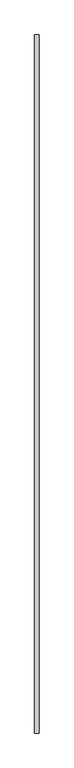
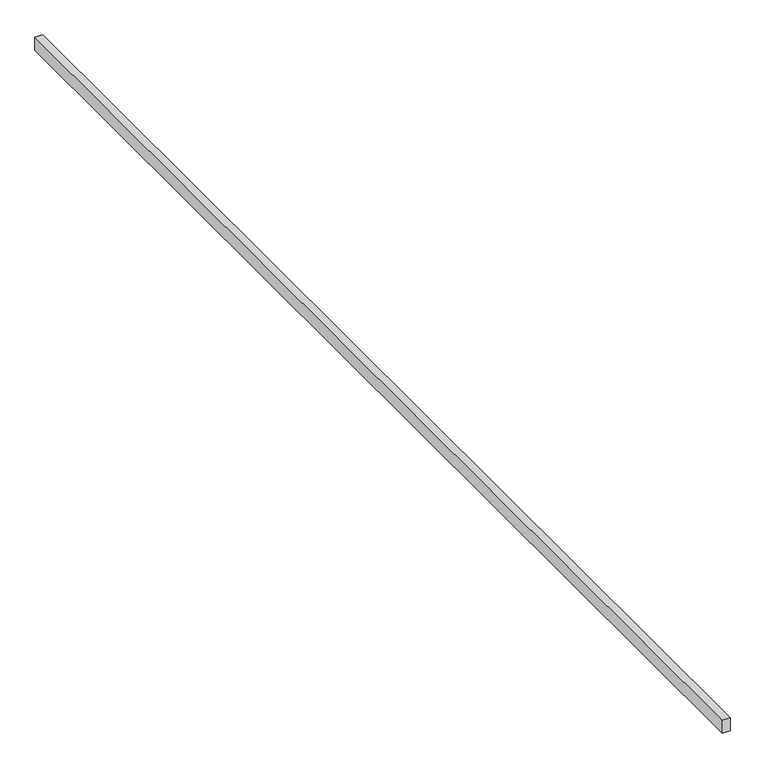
"""IFC4 building model written with IfcOpenShell, lengths in millimetres: proxy geometry, BHMS_Curtain Ext2 : BHMS_Curtain Ext."""

import ifcopenshell
import ifcopenshell.guid

model = None  # the IFC model being written
_history = None  # IfcOwnerHistory: only IFC2X3 demands one
_inside = {}  # id of a spatial element -> (the spatial element, [elements in it])
_under = {}  # id of a project, library or spatial element -> (it, [spatial elements below it])
_declared = {}  # id of a project -> (the project, [libraries it declares])
_typed = {}  # id of a type object -> (the type object, [elements of that type])
_made_of = {}  # id of a material, layer set ... -> (it, [elements and type objects made of it])


def new_model(schema):
    """Start an empty IFC model of exactly this schema.

    Asked for "IFC4X3", IfcOpenShell would pick the latest addendum, in which some entities
    have other attributes; the version numbers below select the first issue.
    IFC2X3 requires an IfcOwnerHistory on every rooted entity: one is made here for all.
    """
    global model, _history
    if schema == "IFC4X3":
        model = ifcopenshell.file(schema_version=(4, 3, 0, 0))
    else:
        model = ifcopenshell.file(schema=schema)
    _inside.clear()
    _under.clear()
    _declared.clear()
    _typed.clear()
    _made_of.clear()
    _history = None
    if model.schema == "IFC2X3":
        org = make("IfcOrganization", Name="unknown")
        user = make(
            "IfcPersonAndOrganization",
            ThePerson=make("IfcPerson", FamilyName="unknown"),
            TheOrganization=org,
        )
        app = make(
            "IfcApplication",
            ApplicationDeveloper=org,
            Version="unknown",
            ApplicationFullName="unknown",
            ApplicationIdentifier="unknown",
        )
        _history = make(
            "IfcOwnerHistory",
            OwningUser=user,
            OwningApplication=app,
            ChangeAction="ADDED",
            CreationDate=0,
        )
    return model


def make(cls, **values):
    """One entity of the class cls with the attributes given. An attribute that is None is left unset."""
    return model.create_entity(
        cls, **{name: value for name, value in values.items() if value is not None}
    )


def rooted(cls, **values):
    """An entity with a GlobalId (a new one), such as an element, a storey or a relation."""
    return make(cls, GlobalId=ifcopenshell.guid.new(), OwnerHistory=_history, **values)


def si_unit(unit_type, name, prefix=None):
    """IfcSIUnit, for example si_unit("LENGTHUNIT", "METRE", prefix="MILLI")."""
    return make("IfcSIUnit", UnitType=unit_type, Prefix=prefix, Name=name)


def assignment(units):
    """IfcUnitAssignment: the units of a project."""
    return None if units is None else make("IfcUnitAssignment", Units=units)


def point(xyz):
    """IfcCartesianPoint."""
    return None if xyz is None else make("IfcCartesianPoint", Coordinates=xyz)


def direction(xyz):
    """IfcDirection."""
    return None if xyz is None else make("IfcDirection", DirectionRatios=xyz)


def frame(location, z_axis=None, x_axis=None):
    """IfcAxis2Placement3D, a coordinate frame: its origin and axes. An axis left out is left unset."""
    return make(
        "IfcAxis2Placement3D",
        Location=point(location),
        Axis=direction(z_axis),
        RefDirection=direction(x_axis),
    )


def origin():
    """The frame at (0, 0, 0) with its axes left unset."""
    return frame((0.0, 0.0, 0.0))


def place(relative_to, where):
    """IfcLocalPlacement: puts the frame where relative to a parent placement (None: the world)."""
    return make(
        "IfcLocalPlacement", PlacementRelTo=relative_to, RelativePlacement=where
    )


def context(
    kind, dimensions, precision=None, world=None, true_north=None, identifier=None
):
    """IfcGeometricRepresentationContext, for example the 3D "Model" context."""
    return make(
        "IfcGeometricRepresentationContext",
        ContextIdentifier=identifier,
        ContextType=kind,
        CoordinateSpaceDimension=dimensions,
        Precision=precision,
        WorldCoordinateSystem=world,
        TrueNorth=true_north,
    )


def project(units=None, contexts=None):
    """IfcProject with its units and contexts."""
    return rooted(
        "IfcProject",
        Name="project",
        RepresentationContexts=contexts,
        UnitsInContext=assignment(units),
    )


def spatial(cls, under=None, at=None, **own):
    """A site, building, storey or space (cls), placed at a placement, below another one or the project."""
    s = rooted(cls, ObjectPlacement=at, **own)
    if under is not None:
        _under.setdefault(under.id(), (under, []))[1].append(s)
    return s


def polyline(points):
    """IfcPolyline through the points."""
    return make("IfcPolyline", Points=[point(p) for p in points])


def outline(outer, holes=None, kind="AREA"):
    """IfcArbitraryClosedProfileDef: a profile drawn as a closed curve; with holes, ...WithVoids."""
    if holes is None:
        return make("IfcArbitraryClosedProfileDef", ProfileType=kind, OuterCurve=outer)
    return make(
        "IfcArbitraryProfileDefWithVoids",
        ProfileType=kind,
        OuterCurve=outer,
        InnerCurves=holes,
    )


def extrude(swept, where, along, depth):
    """IfcExtrudedAreaSolid: the profile swept, set in the frame where, extruded along a direction by depth."""
    return make(
        "IfcExtrudedAreaSolid",
        SweptArea=swept,
        Position=where,
        ExtrudedDirection=direction(along),
        Depth=depth,
    )


def shape(context_of_items, identifier, shape_type, items):
    """IfcShapeRepresentation: the items that make up one representation, for example the "Body"."""
    return make(
        "IfcShapeRepresentation",
        ContextOfItems=context_of_items,
        RepresentationIdentifier=identifier,
        RepresentationType=shape_type,
        Items=items,
    )


def source(mapping_origin, context_of_items, identifier, shape_type, items):
    """IfcRepresentationMap: a shape defined once, which mapped items show again and again."""
    return make(
        "IfcRepresentationMap",
        MappingOrigin=mapping_origin,
        MappedRepresentation=shape(context_of_items, identifier, shape_type, items),
    )


def transform(
    local_origin,
    x_axis=None,
    y_axis=None,
    z_axis=None,
    scale=None,
    scale2=None,
    scale3=None,
    uniform=True,
):
    """IfcCartesianTransformationOperator3D, or its non-uniform kind. x_axis, y_axis, z_axis: its Axis1, 2, 3."""
    if uniform:
        return make(
            "IfcCartesianTransformationOperator3D",
            Axis1=direction(x_axis),
            Axis2=direction(y_axis),
            LocalOrigin=point(local_origin),
            Scale=scale,
            Axis3=direction(z_axis),
        )
    return make(
        "IfcCartesianTransformationOperator3DnonUniform",
        Axis1=direction(x_axis),
        Axis2=direction(y_axis),
        LocalOrigin=point(local_origin),
        Scale=scale,
        Axis3=direction(z_axis),
        Scale2=scale2,
        Scale3=scale3,
    )


def mapped(mapping_source, mapping_target):
    """IfcMappedItem: shows the shape of a source again, moved by a transform."""
    return make(
        "IfcMappedItem", MappingSource=mapping_source, MappingTarget=mapping_target
    )


def made_of(thing, what):
    """Note that an element or type object is made of a material, layer set ...; save() writes the relation."""
    if what is not None:
        _made_of.setdefault(what.id(), (what, []))[1].append(thing)
    return thing


def element(
    cls,
    number,
    at=None,
    inside=None,
    cuts=None,
    type_object=None,
    material=None,
    context=None,
    identifier="Body",
    shape_type=None,
    held_by="IfcProductDefinitionShape",
    body=None,
    shapes=None,
    **own,
):
    """One element of the class cls, such as IfcWall. Its Tag is "e" and its number.

    at: its placement. inside: the storey or other place that contains it. cuts: it is an
    opening in that element (IfcRelVoidsElement). A single representation is given by context,
    identifier, shape_type and body (its items); several are given by shapes. held_by: the class
    of the entity that holds the representations. save() writes the other relations.
    """
    e = rooted(cls, Tag="e%d" % number, ObjectPlacement=at, **own)
    if body is not None:
        shapes = [shape(context, identifier, shape_type, body)]
    if shapes is not None:
        e.Representation = make(held_by, Representations=shapes)
    if inside is not None:
        _inside.setdefault(inside.id(), (inside, []))[1].append(e)
    if cuts is not None:
        rooted(
            "IfcRelVoidsElement", RelatingBuildingElement=cuts, RelatedOpeningElement=e
        )
    if type_object is not None:
        _typed.setdefault(type_object.id(), (type_object, []))[1].append(e)
    return made_of(e, material)


def aggregate(whole, parts):
    """IfcRelAggregates: a whole, such as a stair, and the parts it consists of."""
    return rooted("IfcRelAggregates", RelatingObject=whole, RelatedObjects=parts)


def save(model, path):
    """Write the relations noted so far, then the file.

    IfcRelAggregates (storeys below a building ...), IfcRelContainedInSpatialStructure (elements
    in a storey), IfcRelDefinesByType, IfcRelAssociatesMaterial and IfcRelDeclares: one each for
    every whole, place, type object, material and project.
    """
    for whole, parts in _under.values():
        aggregate(whole, parts)
    for where, things in _inside.values():
        rooted(
            "IfcRelContainedInSpatialStructure",
            RelatedElements=things,
            RelatingStructure=where,
        )
    for kind, things in _typed.values():
        rooted("IfcRelDefinesByType", RelatedObjects=things, RelatingType=kind)
    for what, things in _made_of.values():
        rooted("IfcRelAssociatesMaterial", RelatedObjects=things, RelatingMaterial=what)
    for by, libraries in _declared.values():
        rooted("IfcRelDeclares", RelatingContext=by, RelatedDefinitions=libraries)
    model.write(path)


def generic_models_4dffa418(model_context):
    return source(origin(), model_context, "Body", "SweptSolid", [
        extrude(outline(polyline([(58884.094229, 531.654555), (58924.1659578, 531.654555), (58924.1659578, -5700.834239), (58884.094229, -5700.834239), (58884.094229, 531.654555)])), frame((0.0, 0.0, 2100.0), z_axis=(0.0, 0.0, 1.0), x_axis=(1.0, 0.0, 0.0)), (0.0, 0.0, 1.0), 70.0),
    ])


if __name__ == "__main__":
    model = new_model("IFC4")
    model_context = context("Model", 3, world=origin())
    ifc_project = project(units=[si_unit("LENGTHUNIT", "METRE", prefix="MILLI")], contexts=[model_context])
    site = spatial("IfcSite", under=ifc_project)
    building = spatial("IfcBuilding", under=site)
    placement = place(None, origin())
    generic_models_shape = generic_models_4dffa418(model_context)
    element("IfcBuildingElementProxy", 1, Name="BHMS_Curtain Ext2 : BHMS_Curtain Ext", ObjectType="BHMS_Curtain Ext2 : BHMS_Curtain Ext", at=placement, inside=building, context=model_context, shape_type="MappedRepresentation", body=[
        mapped(generic_models_shape, transform((0.0, 0.0, 0.0), x_axis=(1.0, 0.0, 0.0), y_axis=(0.0, 1.0, 0.0), z_axis=(0.0, 0.0, 1.0))),
    ])
    save(model, "model.ifc")
